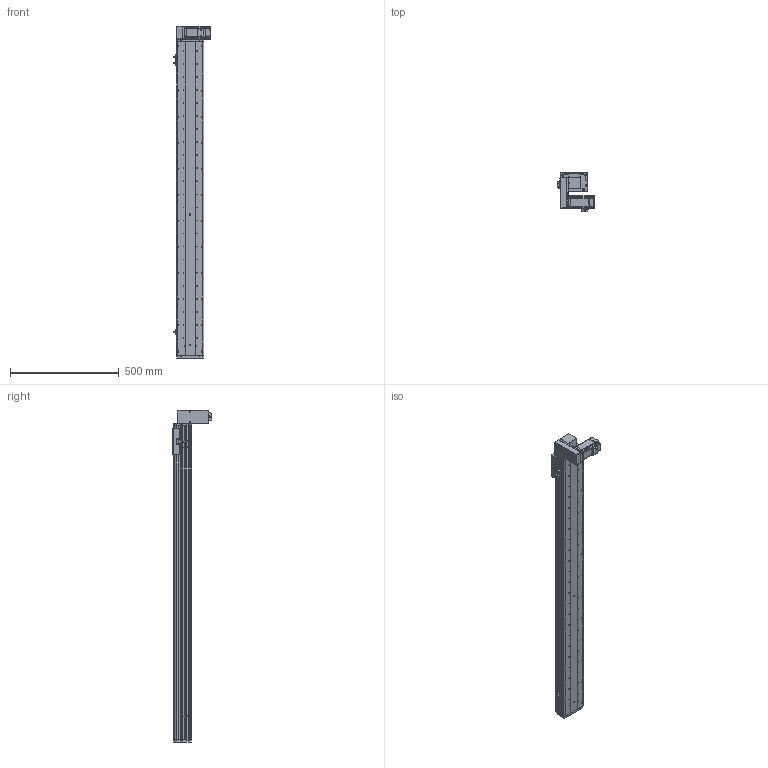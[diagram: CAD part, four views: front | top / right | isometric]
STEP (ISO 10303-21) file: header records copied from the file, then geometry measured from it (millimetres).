
FILE_DESCRIPTION (( 'STEP AP214' ), '1' );
FILE_NAME ('KSD125B-S1250-MRD-CM.STEP', '2017-10-21T06:32:17', ( '微软用户' ), ( '微软中国' ), 'SwSTEP 2.0', 'SolidWorks 2014', '' );
FILE_SCHEMA (( 'AUTOMOTIVE_DESIGN' ));
Length unit declared in the file: millimetre
Products named in the file (17): 前端板-125宽模组同步带; 125模组同步带-尾端板1; KSD125模组同步带-滑动座1; KSD125B-S1250-MRD-CM; 悵誘欶奻狟殏; HTPA30S3M150_A_H6_a佪裝蚚; HTPA30S3M150_A_H6_a萇儂蚚; 100宽马达安装板连板上下折丝杆同步带; KSD125模组1250行程同步带-防尘盖; 125模组1250行程同步带-底板; MHMD042G1CA_2_03; KSD125模组同步带-防撞垫2; 覜茼え68遵圉猾敕; U倰嫖萇假蚾璃; U倰嫖萇EEㄜSX672; KSD125模组同步带-防撞垫1; 100宽马达安装板同步带右
Assembly tree (20 placements, depth 2):
  KSD125B-S1250-MRD-CM
    KSD125模组同步带-滑动座1
    125模组同步带-尾端板1
    前端板-125宽模组同步带
    100宽马达安装板同步带右
    KSD125模组同步带-防撞垫1
    U倰嫖萇EEㄜSX672  x3
    U倰嫖萇假蚾璃  x3
    覜茼え68遵圉猾敕
    KSD125模组同步带-防撞垫2
    MHMD042G1CA_2_03
    125模组1250行程同步带-底板
    KSD125模组1250行程同步带-防尘盖
    100宽马达安装板连板上下折丝杆同步带
    HTPA30S3M150_A_H6_a萇儂蚚
    HTPA30S3M150_A_H6_a佪裝蚚
    悵誘欶奻狟殏
Bounding box: 168.7 x 179.5 x 1527 mm (x, y, z)
Volume: 4593908.6 mm3; surface area: 1530443.9 mm2
Topology: 19 solids, 22 shells, 2347 faces, 6805 edges, 4498 vertices
Faces by surface type: cylinder 1488, plane 732, cone 105, bspline 22
Entity records: 83843 total; most frequent: CARTESIAN_POINT 16515, DIRECTION 13026, ORIENTED_EDGE 12130, EDGE_CURVE 6143, AXIS2_PLACEMENT_3D 5049, VERTEX_POINT 4090, VECTOR 2928, LINE 2928
